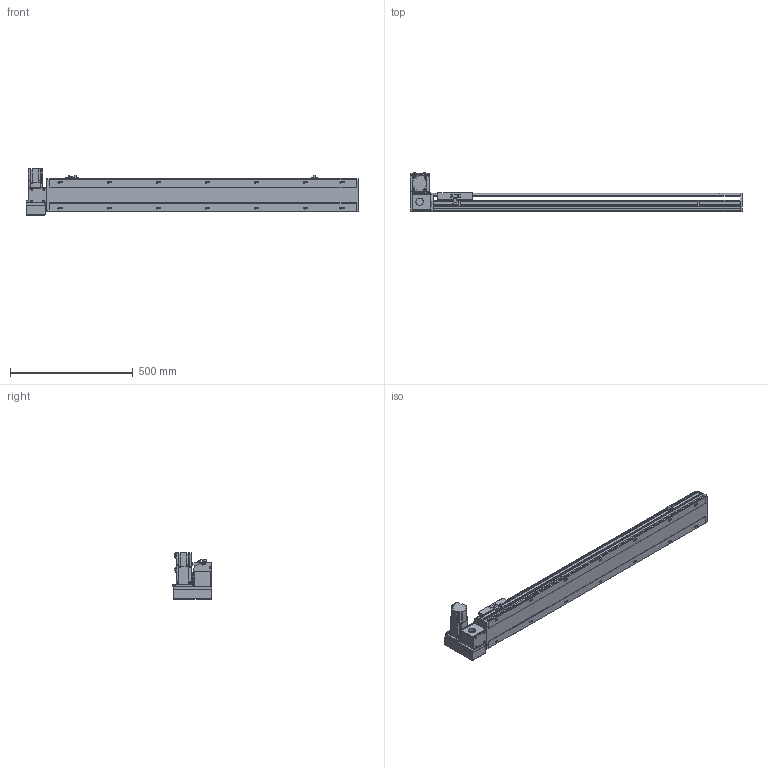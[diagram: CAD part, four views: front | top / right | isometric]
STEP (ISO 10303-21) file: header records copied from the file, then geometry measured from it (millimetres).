
FILE_DESCRIPTION( ( 'STEP AP214' ), '1' );
FILE_NAME( 'x:/temp/worker_1/temp/exporttempdir_5824_30_dHNL2/format_0/PBS140-P40-S1000-LU-T40-C1-N(0).stp', '2022-06-07T05:16:51', ( 'License CC BY-ND 4.0' ), ( 'CADENAS' ), ' ', 'PARTsolutions', ' ' );
FILE_SCHEMA( ( 'AUTOMOTIVE_DESIGN { 1 0 10303 214 1 1 1 1 }' ) );
Length unit declared in the file: millimetre
Products named in the file (7): PBS140-P40-S1000-LU-T40-C1-N(0); _PBS140-S1000()_body; _PBS140T-LU_motors; _T40-p1; _PBS140_sliser; _PBS140_plant; _PBS140_sensor
Assembly tree (8 placements, depth 2):
  PBS140-P40-S1000-LU-T40-C1-N(0)
    _PBS140-S1000()_body
    _PBS140T-LU_motors
    _T40-p1
    _PBS140_sliser
    _PBS140_plant
    _PBS140_sensor  x3
Bounding box: 1354 x 162.5 x 189.7 mm (x, y, z)
Volume: 6513375.3 mm3; surface area: 1139508.9 mm2
Topology: 8 solids, 8 shells, 1059 faces, 2796 edges, 1827 vertices
Faces by surface type: plane 686, cylinder 323, cone 40, sphere 8, torus 2
Full cylindrical faces by diameter (mm): 3.242 x4, 4 x2, 4.134 x4, 4.4 x8, 4.5 x2, 4.8 x4, 4.917 x22, 5.5 x7, 6 x2, 7 x16, 7.5 x8, 8 x12, 8.5 x4, 10.5 x14, 14 x1, 30 x2, 50 x2
Entity records: 38647 total; most frequent: CARTESIAN_POINT 6083, DIRECTION 5127, ORIENTED_EDGE 4852, EDGE_CURVE 2426, AXIS2_PLACEMENT_3D 1777, VERTEX_POINT 1677, LINE 1573, VECTOR 1573
